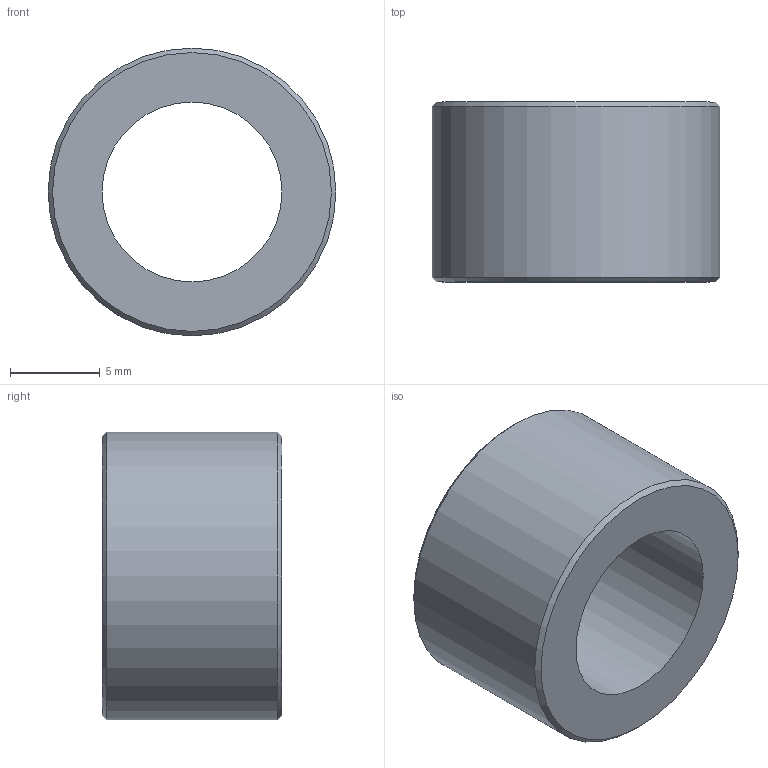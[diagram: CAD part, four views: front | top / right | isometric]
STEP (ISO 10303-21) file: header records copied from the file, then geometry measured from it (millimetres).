
FILE_DESCRIPTION(/* description */ ('','CAx-IF Rec.Pracs.---Representation and Presentation of Product Manufacturing Information (PMI)---4.0---2014-10-13'),/* implementation_level */ '2;1');
FILE_NAME(/* name */ 'Aluminium Spacer - 10mm - 10mm.step',/* time_stamp */ '2024-11-30T18:30:18+02:00',/* author */ (''),/* organization */ (''),/* preprocessor_version */ 'ST-DEVELOPER v20',/* originating_system */ 'Autodesk Translation Framework v13.20.0.188',/* authorisation */ '');
FILE_SCHEMA (('AP242_MANAGED_MODEL_BASED_3D_ENGINEERING_MIM_LF { 1 0 10303 442 1 1 4 }'));
Length unit declared in the file: millimetre
Products named in the file (1): Aluminium Spacer -  10mm - 10mm
Bounding box: 16 x 10 x 16 mm (x, y, z)
Volume: 1222.1 mm3; surface area: 1047 mm2
Topology: 1 solids, 1 shells, 6 faces, 10 edges, 6 vertices
Faces by surface type: cone 2, cylinder 2, plane 2
Full cylindrical faces by diameter (mm): 10 x1, 16 x1
Entity records: 181 total; most frequent: DIRECTION 30, CARTESIAN_POINT 23, ORIENTED_EDGE 20, AXIS2_PLACEMENT_3D 13, EDGE_CURVE 10, EDGE_LOOP 8, FACE_OUTER_BOUND 6, CIRCLE 6
